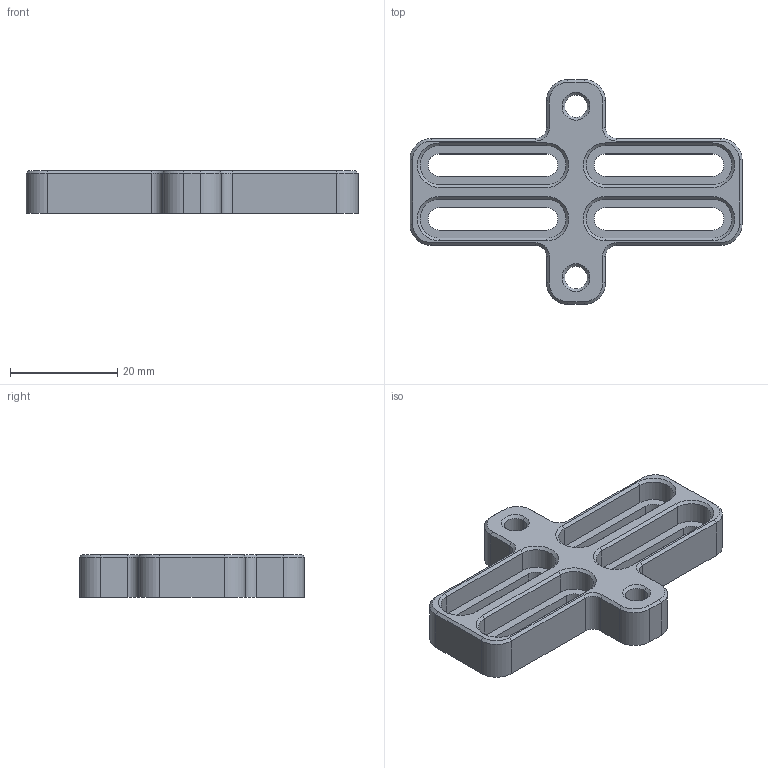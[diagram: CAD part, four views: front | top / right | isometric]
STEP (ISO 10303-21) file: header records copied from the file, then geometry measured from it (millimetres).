
FILE_DESCRIPTION (( 'STEP AP214' ), '1' );
FILE_NAME ('GSMP-04.STEP', '2019-12-04T09:03:21', ( '微软用户' ), ( '微软中国' ), 'SwSTEP 2.0', 'SolidWorks 2016', '' );
FILE_SCHEMA (( 'AUTOMOTIVE_DESIGN' ));
Length unit declared in the file: millimetre
Products named in the file (1): GSMP-04
Bounding box: 62 x 42 x 8 mm (x, y, z)
Volume: 6516.2 mm3; surface area: 5534.9 mm2
Topology: 1 solids, 1 shells, 114 faces, 276 edges, 168 vertices
Faces by surface type: plane 54, cylinder 32, cone 28
Entity records: 4600 total; most frequent: DIRECTION 598, CARTESIAN_POINT 559, ORIENTED_EDGE 552, EDGE_CURVE 276, AXIS2_PLACEMENT_3D 207, VECTOR 184, LINE 184, VERTEX_POINT 168
